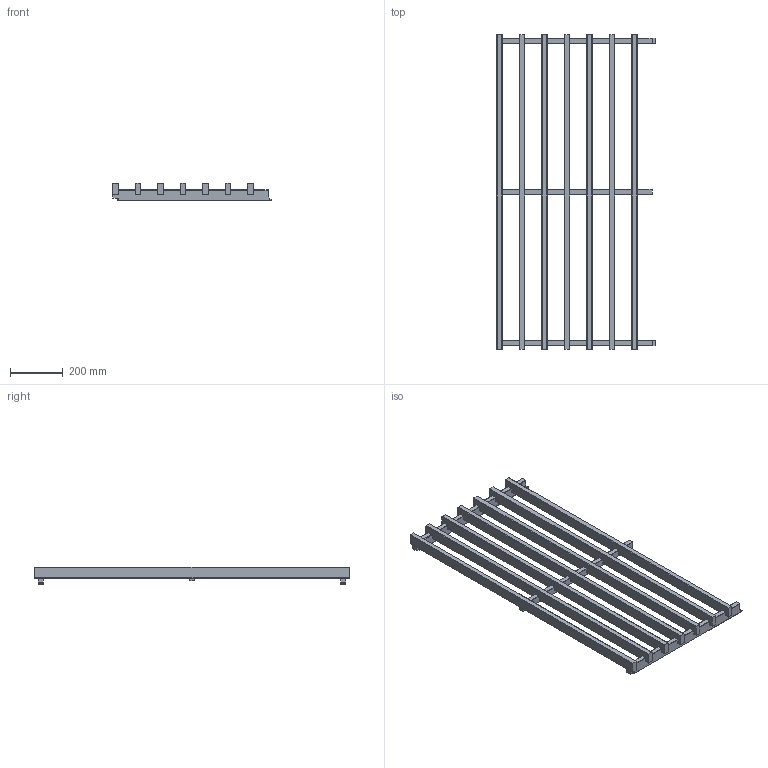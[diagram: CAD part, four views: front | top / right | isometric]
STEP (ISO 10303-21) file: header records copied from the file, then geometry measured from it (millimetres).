
FILE_DESCRIPTION (( 'STEP AP214' ), '1' );
FILE_NAME ('Lao 2.4.6.STEP', '2024-05-31T09:07:26', ( 'UTILISATEUR' ), ( '' ), 'SwSTEP 2.0', 'SolidWorks 2021', '' );
FILE_SCHEMA (( 'AUTOMOTIVE_DESIGN' ));
Length unit declared in the file: millimetre
Products named in the file (4): Contrelatte 20x42_2.4.6; Lame aboutée 20x42x1199mm_1199; Contrelatte centrale 20x28_2.4.6; Lao 2.4.6
Assembly tree (10 placements, depth 2):
  Lao 2.4.6
    Contrelatte 20x42_2.4.6  x2
    Lame aboutée 20x42x1199mm_1199  x7
    Contrelatte centrale 20x28_2.4.6
Bounding box: 603 x 1199 x 66 mm (x, y, z)
Volume: 8178472.3 mm3; surface area: 1226773.3 mm2
Topology: 10 solids, 10 shells, 252 faces, 696 edges, 464 vertices
Faces by surface type: plane 234, cylinder 18
Entity records: 4492 total; most frequent: CARTESIAN_POINT 787, ORIENTED_EDGE 756, DIRECTION 696, EDGE_CURVE 378, LINE 342, VECTOR 342, VERTEX_POINT 252, AXIS2_PLACEMENT_3D 177
